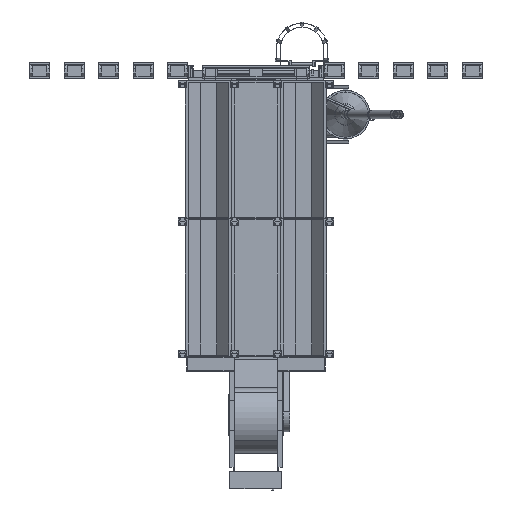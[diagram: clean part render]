
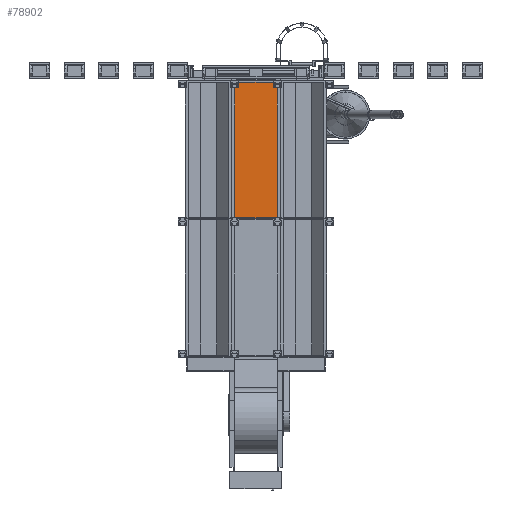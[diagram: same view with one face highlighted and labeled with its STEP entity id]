
A CAD part, front view. The second image highlights one B-rep face of the part: STEP entity #78902.
In plain terms, the highlighted planar face has unit normal (0, -1, 0) as drawn and (0, 0, -1) by its records, which use the part's own axes.
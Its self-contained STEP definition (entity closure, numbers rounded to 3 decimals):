
#4598=FACE_OUTER_BOUND('',#8653,.T.);
#8653=EDGE_LOOP('',(#52738,#52739,#52740,#52741));
#13535=LINE('',#111327,#23368);
#13538=LINE('',#111333,#23371);
#13604=LINE('',#111471,#23437);
#13605=LINE('',#111472,#23438);
#23368=VECTOR('',#89778,0.394);
#23371=VECTOR('',#89783,0.394);
#23437=VECTOR('',#89873,0.394);
#23438=VECTOR('',#89874,0.394);
#33130=VERTEX_POINT('',#111320);
#33133=VERTEX_POINT('',#111325);
#33134=VERTEX_POINT('',#111329);
#33195=VERTEX_POINT('',#111470);
#40815=EDGE_CURVE('',#33133,#33130,#13535,.T.);
#40818=EDGE_CURVE('',#33130,#33134,#13538,.T.);
#40884=EDGE_CURVE('',#33195,#33134,#13604,.T.);
#40885=EDGE_CURVE('',#33195,#33133,#13605,.T.);
#52738=ORIENTED_EDGE('',*,*,#40884,.T.);
#52739=ORIENTED_EDGE('',*,*,#40818,.F.);
#52740=ORIENTED_EDGE('',*,*,#40815,.F.);
#52741=ORIENTED_EDGE('',*,*,#40885,.F.);
#75623=PLANE('',#83669);
#78902=ADVANCED_FACE('',(#4598),#75623,.F.);
#83669=AXIS2_PLACEMENT_3D('',#111469,#89871,#89872);
#89778=DIRECTION('',(0.,-1.,0.));
#89783=DIRECTION('',(1.,0.,0.));
#89871=DIRECTION('center_axis',(0.,0.,1.));
#89872=DIRECTION('ref_axis',(1.,0.,0.));
#89873=DIRECTION('',(0.,-1.,0.));
#89874=DIRECTION('',(-1.,0.,0.));
#111320=CARTESIAN_POINT('',(-288.,-47.25,0.));
#111325=CARTESIAN_POINT('',(-288.,47.25,0.));
#111327=CARTESIAN_POINT('',(-288.,47.25,0.));
#111329=CARTESIAN_POINT('',(-192.004,-47.25,0.));
#111333=CARTESIAN_POINT('',(-288.,-47.25,0.));
#111469=CARTESIAN_POINT('Origin',(-144.,0.,0.));
#111470=CARTESIAN_POINT('',(-192.004,47.25,0.));
#111471=CARTESIAN_POINT('',(-192.004,2.638,0.));
#111472=CARTESIAN_POINT('',(0.,47.25,0.));
